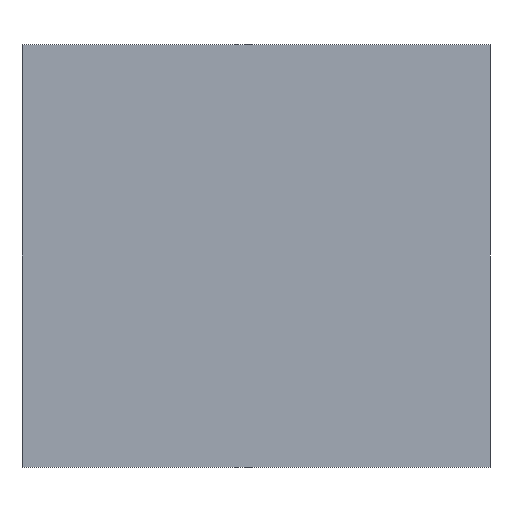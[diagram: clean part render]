
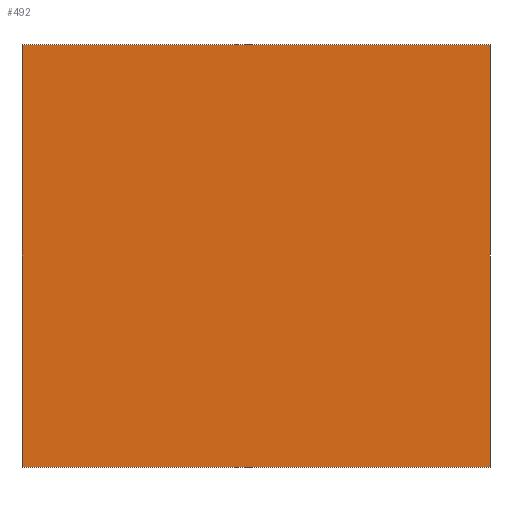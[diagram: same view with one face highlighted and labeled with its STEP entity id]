
A CAD part, left-side view. The second image highlights one B-rep face of the part: STEP entity #492.
In plain terms, the highlighted planar face has unit normal (-1, 0, 0).
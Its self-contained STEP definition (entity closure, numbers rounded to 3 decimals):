
#140 = VECTOR ( 'NONE', #1853, 1000. ) ;
#234 = LINE ( 'NONE', #2002, #1949 ) ;
#296 = LINE ( 'NONE', #704, #140 ) ;
#424 = DIRECTION ( 'NONE',  ( -1., 0., 0. ) ) ;
#492 = ADVANCED_FACE ( 'NONE', ( #562 ), #2337, .T. ) ;
#562 = FACE_OUTER_BOUND ( 'NONE', #1319, .T. ) ;
#690 = CARTESIAN_POINT ( 'NONE',  ( -0.025, 0., 0. ) ) ;
#704 = CARTESIAN_POINT ( 'NONE',  ( -0.025, 1.385, 1.25 ) ) ;
#722 = AXIS2_PLACEMENT_3D ( 'NONE', #690, #424, #1540 ) ;
#726 = ORIENTED_EDGE ( 'NONE', *, *, #2033, .F. ) ;
#803 = VERTEX_POINT ( 'NONE', #1686 ) ;
#804 = CARTESIAN_POINT ( 'NONE',  ( -0.025, -1.385, -1.25 ) ) ;
#887 = LINE ( 'NONE', #1774, #1984 ) ;
#894 = EDGE_CURVE ( 'NONE', #803, #1090, #887, .T. ) ;
#912 = VERTEX_POINT ( 'NONE', #1284 ) ;
#1002 = CARTESIAN_POINT ( 'NONE',  ( -0.025, -1.385, -1.25 ) ) ;
#1090 = VERTEX_POINT ( 'NONE', #804 ) ;
#1197 = ORIENTED_EDGE ( 'NONE', *, *, #1446, .F. ) ;
#1271 = DIRECTION ( 'NONE',  ( 0., 1., 0. ) ) ;
#1284 = CARTESIAN_POINT ( 'NONE',  ( -0.025, 1.385, 1.25 ) ) ;
#1319 = EDGE_LOOP ( 'NONE', ( #726, #2564, #1197, #2205 ) ) ;
#1446 = EDGE_CURVE ( 'NONE', #912, #803, #234, .T. ) ;
#1540 = DIRECTION ( 'NONE',  ( 0., 0., 1. ) ) ;
#1686 = CARTESIAN_POINT ( 'NONE',  ( -0.025, -1.385, 1.25 ) ) ;
#1774 = CARTESIAN_POINT ( 'NONE',  ( -0.025, -1.385, 1.25 ) ) ;
#1853 = DIRECTION ( 'NONE',  ( 0., 0., 1. ) ) ;
#1949 = VECTOR ( 'NONE', #2677, 1000. ) ;
#1984 = VECTOR ( 'NONE', #2392, 1000. ) ;
#2002 = CARTESIAN_POINT ( 'NONE',  ( -0.025, -1.385, 1.25 ) ) ;
#2033 = EDGE_CURVE ( 'NONE', #1090, #2307, #2594, .T. ) ;
#2205 = ORIENTED_EDGE ( 'NONE', *, *, #2882, .F. ) ;
#2285 = CARTESIAN_POINT ( 'NONE',  ( -0.025, 1.385, -1.25 ) ) ;
#2307 = VERTEX_POINT ( 'NONE', #2285 ) ;
#2337 = PLANE ( 'NONE',  #722 ) ;
#2392 = DIRECTION ( 'NONE',  ( 0., 0., -1. ) ) ;
#2494 = VECTOR ( 'NONE', #1271, 1000. ) ;
#2564 = ORIENTED_EDGE ( 'NONE', *, *, #894, .F. ) ;
#2594 = LINE ( 'NONE', #1002, #2494 ) ;
#2677 = DIRECTION ( 'NONE',  ( 0., -1., 0. ) ) ;
#2882 = EDGE_CURVE ( 'NONE', #2307, #912, #296, .T. ) ;
